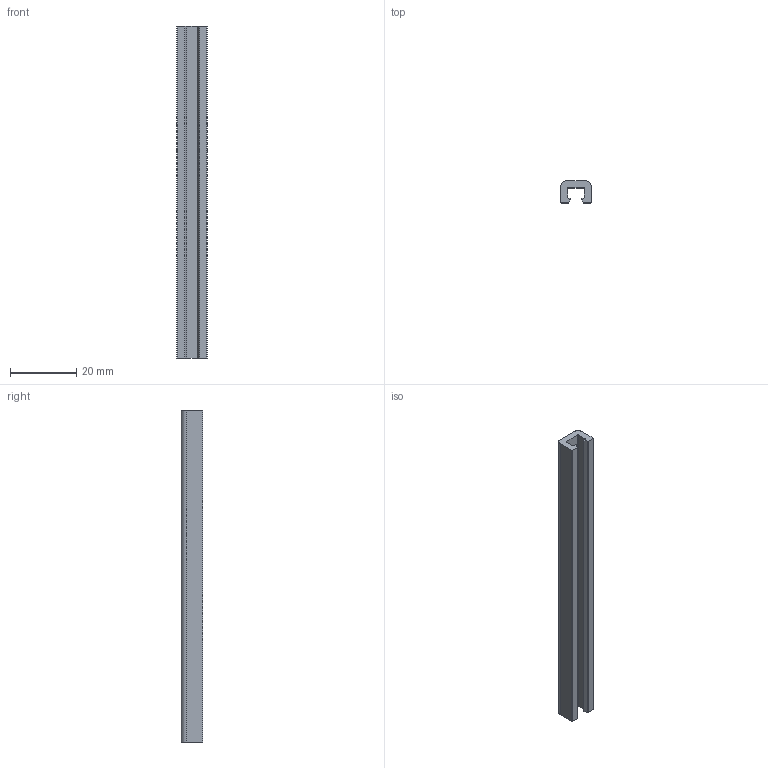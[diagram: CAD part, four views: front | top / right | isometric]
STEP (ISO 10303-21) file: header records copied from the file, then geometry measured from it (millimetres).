
FILE_DESCRIPTION (( 'STEP AP203' ), '1' );
FILE_NAME ('112.101.003.STEP', '2017-07-04T12:48:17', ( 'Localadmin' ), ( 'Microsoft' ), 'SwSTEP 2.0', 'SolidWorks 2016', '' );
FILE_SCHEMA (( 'CONFIG_CONTROL_DESIGN' ));
Length unit declared in the file: millimetre
Products named in the file (1): 112.101.003
Bounding box: 9.1 x 6.5 x 100 mm (x, y, z)
Volume: 3696.2 mm3; surface area: 4167.3 mm2
Topology: 1 solids, 1 shells, 27 faces, 75 edges, 50 vertices
Faces by surface type: plane 14, cylinder 13
Entity records: 952 total; most frequent: DIRECTION 157, CARTESIAN_POINT 153, ORIENTED_EDGE 150, EDGE_CURVE 75, AXIS2_PLACEMENT_3D 54, VERTEX_POINT 50, VECTOR 49, LINE 49
